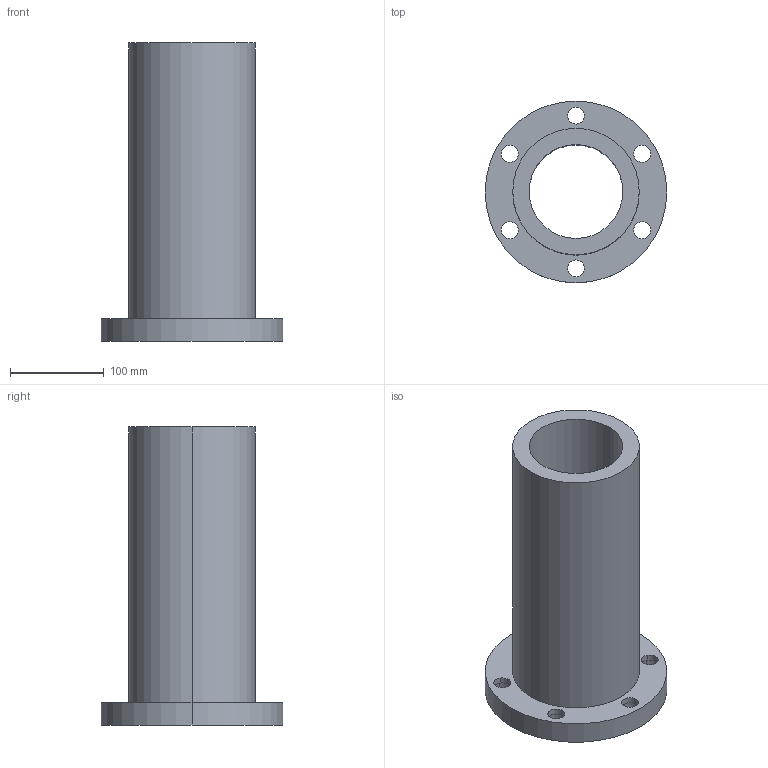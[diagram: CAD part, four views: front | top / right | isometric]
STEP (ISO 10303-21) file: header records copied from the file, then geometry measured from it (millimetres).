
FILE_DESCRIPTION((''),'2;1');
FILE_NAME('100-16T6','2008-04-05T',('cmliu'),(''),'PRO/ENGINEER BY PARAMETRIC TECHNOLOGY CORPORATION, 2004110','PRO/ENGINEER BY PARAMETRIC TECHNOLOGY CORPORATION, 2004110','');
FILE_SCHEMA(('CONFIG_CONTROL_DESIGN'));
Length unit declared in the file: millimetre
Products named in the file (1): 100-16T6
Bounding box: 194 x 194 x 318 mm (x, y, z)
Volume: 2354465 mm3; surface area: 290358.6 mm2
Topology: 1 solids, 1 shells, 39 faces, 98 edges, 68 vertices
Faces by surface type: cylinder 30, plane 9
Entity records: 1290 total; most frequent: DIRECTION 244, CARTESIAN_POINT 205, ORIENTED_EDGE 196, AXIS2_PLACEMENT_3D 107, EDGE_CURVE 98, VERTEX_POINT 68, CIRCLE 68, EDGE_LOOP 60
